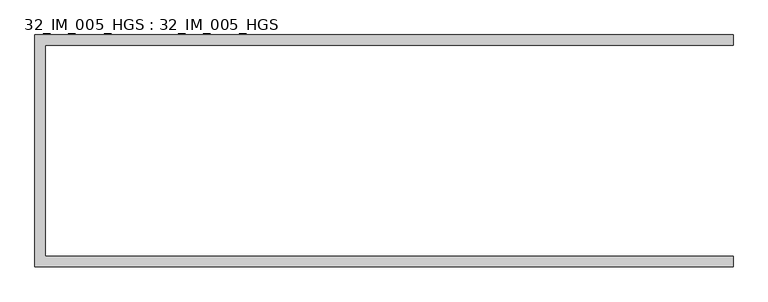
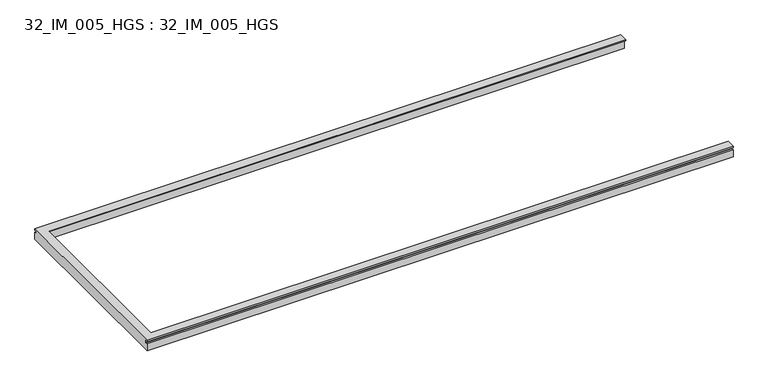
"""IFC4 building model written with IfcOpenShell, lengths in millimetres: member geometry, 32_IM_005_HGS : 32_IM_005_HGS."""

from ifc_helpers import new_model, si_unit, origin, place, context, project, spatial, faceted_brep, source, transform, mapped, element, save


def member_32_im_005_hgs_32_im_005_hgs_3a7d235a(model_context):
    return source(origin(), model_context, "Body", "Brep", [
        faceted_brep([(1485.5, 449.0, 12.5), (1485.5, 449.0, 7.5), (1485.5, 465.0, 7.5), (1485.5, 465.0, -42.5), (1485.5, 493.0, -42.5), (1485.5, 493.0, -6.0), (1485.5, 482.0, -6.0), (1485.5, 482.0, 6.0), (1485.5, 493.0, 6.0), (1485.5, 493.0, 12.5), (-1485.5, 482.0, -6.0), (-1485.5, 493.0, -6.0), (-1485.5, 493.0, -42.5), (-1485.5, -493.0, -42.5), (-1485.5, -493.0, -6.0), (-1485.5, -482.0, -6.0), (-1485.5, -482.0, 6.0), (-1485.5, -493.0, 6.0), (-1485.5, -493.0, 12.5), (-1485.5, 493.0, 12.5), (-1485.5, 493.0, 6.0), (-1485.5, 482.0, 6.0), (-1441.5, 449.0, 12.5), (-1441.5, 449.0, 7.5), (1485.5, -493.0, 12.5), (1485.5, -449.0, 12.5), (-1441.5, -449.0, 12.5), (1485.5, -493.0, -42.5), (-1457.5, 465.0, -42.5), (-1457.5, -465.0, -42.5), (1485.5, -465.0, -42.5), (-1457.5, 465.0, 7.5), (-1457.5, -465.0, 7.5), (-1441.5, -449.0, 7.5), (1485.5, -449.0, 7.5), (1485.5, -465.0, 7.5), (1485.5, -482.0, -6.0), (1485.5, -482.0, 6.0), (1485.5, -493.0, 6.0), (1485.5, -493.0, -6.0)], [[[0, 1, 2, 3, 4, 5, 6, 7, 8, 9]], [[10, 11, 12, 13, 14, 15, 16, 17, 18, 19, 20, 21]], [[0, 22, 23, 1]], [[22, 0, 9, 19, 18, 24, 25, 26]], [[7, 6, 10, 21]], [[27, 13, 12, 4, 3, 28, 29, 30]], [[31, 32, 29, 28]], [[31, 2, 1, 23, 33, 34, 35, 32]], [[32, 35, 30, 29]], [[2, 31, 28, 3]], [[16, 15, 36, 37]], [[22, 26, 33, 23]], [[25, 24, 38, 37, 36, 39, 27, 30, 35, 34]], [[26, 25, 34, 33]], [[6, 5, 11, 10]], [[5, 4, 12, 11]], [[9, 8, 20, 19]], [[8, 7, 21, 20]], [[15, 14, 39, 36]], [[14, 13, 27, 39]], [[18, 17, 38, 24]], [[17, 16, 37, 38]]]),
    ])


if __name__ == "__main__":
    model = new_model("IFC4")
    model_context = context("Model", 3, world=origin())
    ifc_project = project(units=[si_unit("LENGTHUNIT", "METRE", prefix="MILLI")], contexts=[model_context])
    site = spatial("IfcSite", under=ifc_project)
    building = spatial("IfcBuilding", under=site)
    placement = place(None, origin())
    member_32_im_005_hgs_32_im_005_hgs_shape = member_32_im_005_hgs_32_im_005_hgs_3a7d235a(model_context)
    element("IfcMember", 1, ObjectType="32_IM_005_HGS : 32_IM_005_HGS", at=placement, inside=building, context=model_context, shape_type="MappedRepresentation", body=[
        mapped(member_32_im_005_hgs_32_im_005_hgs_shape, transform((0.0, 0.0, 0.0), x_axis=(1.0, 0.0, 0.0), y_axis=(0.0, 1.0, 0.0), z_axis=(0.0, 0.0, 1.0))),
    ])
    save(model, "model.ifc")
